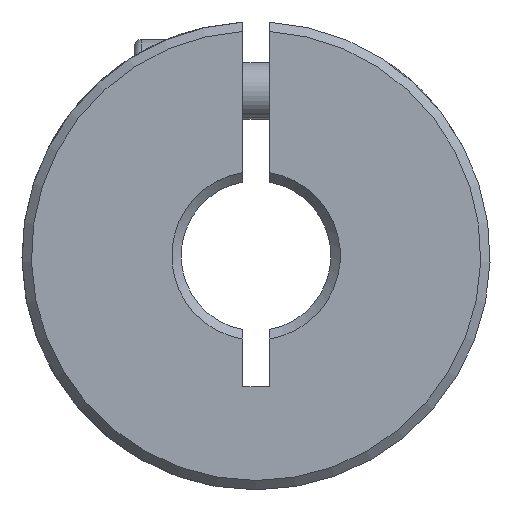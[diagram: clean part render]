
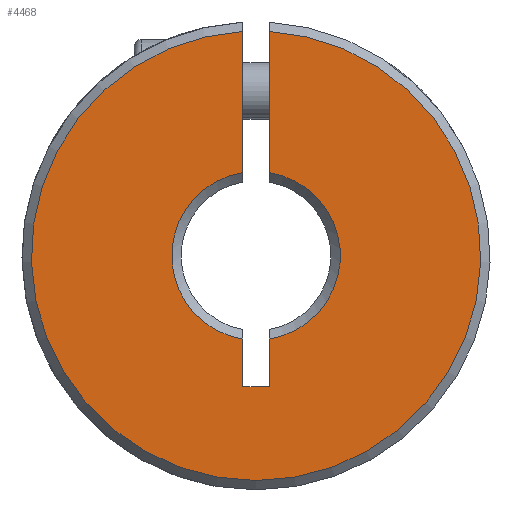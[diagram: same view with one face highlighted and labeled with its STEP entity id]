
A CAD part, front view. The second image highlights one B-rep face of the part: STEP entity #4468.
In plain terms, the highlighted planar face has unit normal (0, -1, 0).
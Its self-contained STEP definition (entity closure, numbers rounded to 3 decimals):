
#33 = EDGE_LOOP ( 'NONE', ( #2289, #3914, #1286, #2125, #3840, #5122, #817, #3143 ) ) ;
#117 = LINE ( 'NONE', #2222, #3641 ) ;
#211 = DIRECTION ( 'NONE',  ( 0., 1., 0. ) ) ;
#329 = CARTESIAN_POINT ( 'NONE',  ( 0.7, 0.25, -4.445 ) ) ;
#409 = VERTEX_POINT ( 'NONE', #4543 ) ;
#636 = CARTESIAN_POINT ( 'NONE',  ( -0.7, 0.25, -7. ) ) ;
#706 = AXIS2_PLACEMENT_3D ( 'NONE', #865, #1567, #4873 ) ;
#713 = CIRCLE ( 'NONE', #2175, 4.5 ) ;
#817 = ORIENTED_EDGE ( 'NONE', *, *, #1670, .F. ) ;
#857 = CARTESIAN_POINT ( 'NONE',  ( 12.5, 0.25, -50. ) ) ;
#865 = CARTESIAN_POINT ( 'NONE',  ( 0., 0.25, 0. ) ) ;
#1139 = DIRECTION ( 'NONE',  ( 1., 0., 0. ) ) ;
#1245 = CARTESIAN_POINT ( 'NONE',  ( 0.7, 0.25, 4.445 ) ) ;
#1286 = ORIENTED_EDGE ( 'NONE', *, *, #2389, .F. ) ;
#1327 = DIRECTION ( 'NONE',  ( 0., 1., 0. ) ) ;
#1332 = DIRECTION ( 'NONE',  ( 0., 0., 1. ) ) ;
#1440 = CARTESIAN_POINT ( 'NONE',  ( -0.7, 0.25, -4.445 ) ) ;
#1492 = AXIS2_PLACEMENT_3D ( 'NONE', #5338, #3762, #2006 ) ;
#1517 = DIRECTION ( 'NONE',  ( 0., 0., 1. ) ) ;
#1567 = DIRECTION ( 'NONE',  ( 0., 1., 0. ) ) ;
#1622 = VERTEX_POINT ( 'NONE', #3104 ) ;
#1670 = EDGE_CURVE ( 'NONE', #1622, #409, #2870, .T. ) ;
#1724 = CARTESIAN_POINT ( 'NONE',  ( 0.7, 0.25, -7. ) ) ;
#1815 = VERTEX_POINT ( 'NONE', #1724 ) ;
#1856 = DIRECTION ( 'NONE',  ( 0., 0., 1. ) ) ;
#1969 = EDGE_CURVE ( 'NONE', #3640, #3019, #3583, .T. ) ;
#2006 = DIRECTION ( 'NONE',  ( 0., 0., 1. ) ) ;
#2125 = ORIENTED_EDGE ( 'NONE', *, *, #4048, .F. ) ;
#2175 = AXIS2_PLACEMENT_3D ( 'NONE', #2257, #211, #1856 ) ;
#2222 = CARTESIAN_POINT ( 'NONE',  ( 0.7, 0.25, -7. ) ) ;
#2235 = VERTEX_POINT ( 'NONE', #636 ) ;
#2257 = CARTESIAN_POINT ( 'NONE',  ( 0., 0.25, 0. ) ) ;
#2282 = CARTESIAN_POINT ( 'NONE',  ( -0.7, 0.25, -7. ) ) ;
#2289 = ORIENTED_EDGE ( 'NONE', *, *, #1969, .F. ) ;
#2389 = EDGE_CURVE ( 'NONE', #1815, #2591, #117, .T. ) ;
#2556 = CARTESIAN_POINT ( 'NONE',  ( -0.7, 0.25, -7. ) ) ;
#2591 = VERTEX_POINT ( 'NONE', #329 ) ;
#2712 = LINE ( 'NONE', #2556, #4017 ) ;
#2870 = LINE ( 'NONE', #2282, #3899 ) ;
#2873 = AXIS2_PLACEMENT_3D ( 'NONE', #857, #1327, #2994 ) ;
#2994 = DIRECTION ( 'NONE',  ( 0., 0., 1. ) ) ;
#3019 = VERTEX_POINT ( 'NONE', #4113 ) ;
#3104 = CARTESIAN_POINT ( 'NONE',  ( -0.7, 0.25, 11.98 ) ) ;
#3114 = VERTEX_POINT ( 'NONE', #1440 ) ;
#3143 = ORIENTED_EDGE ( 'NONE', *, *, #3756, .T. ) ;
#3241 = CARTESIAN_POINT ( 'NONE',  ( 0.7, 0.25, -7. ) ) ;
#3251 = CARTESIAN_POINT ( 'NONE',  ( 0.7, 0.25, -7. ) ) ;
#3557 = VECTOR ( 'NONE', #1517, 1000. ) ;
#3583 = LINE ( 'NONE', #3251, #3557 ) ;
#3591 = EDGE_CURVE ( 'NONE', #3640, #2591, #4864, .T. ) ;
#3640 = VERTEX_POINT ( 'NONE', #1245 ) ;
#3641 = VECTOR ( 'NONE', #1332, 1000. ) ;
#3756 = EDGE_CURVE ( 'NONE', #1622, #3019, #4941, .T. ) ;
#3762 = DIRECTION ( 'NONE',  ( 0., -1., 0. ) ) ;
#3802 = DIRECTION ( 'NONE',  ( 0., 0., -1. ) ) ;
#3840 = ORIENTED_EDGE ( 'NONE', *, *, #4367, .F. ) ;
#3899 = VECTOR ( 'NONE', #3950, 1000. ) ;
#3910 = VECTOR ( 'NONE', #1139, 1000. ) ;
#3914 = ORIENTED_EDGE ( 'NONE', *, *, #3591, .T. ) ;
#3916 = EDGE_CURVE ( 'NONE', #3114, #409, #713, .T. ) ;
#3950 = DIRECTION ( 'NONE',  ( 0., 0., -1. ) ) ;
#4017 = VECTOR ( 'NONE', #3802, 1000. ) ;
#4048 = EDGE_CURVE ( 'NONE', #2235, #1815, #5219, .T. ) ;
#4113 = CARTESIAN_POINT ( 'NONE',  ( 0.7, 0.25, 11.98 ) ) ;
#4367 = EDGE_CURVE ( 'NONE', #3114, #2235, #2712, .T. ) ;
#4468 = ADVANCED_FACE ( 'NONE', ( #4978 ), #5074, .F. ) ;
#4543 = CARTESIAN_POINT ( 'NONE',  ( -0.7, 0.25, 4.445 ) ) ;
#4864 = CIRCLE ( 'NONE', #706, 4.5 ) ;
#4873 = DIRECTION ( 'NONE',  ( 0., 0., 1. ) ) ;
#4941 = CIRCLE ( 'NONE', #1492, 12. ) ;
#4978 = FACE_OUTER_BOUND ( 'NONE', #33, .T. ) ;
#5074 = PLANE ( 'NONE',  #2873 ) ;
#5122 = ORIENTED_EDGE ( 'NONE', *, *, #3916, .T. ) ;
#5219 = LINE ( 'NONE', #3241, #3910 ) ;
#5338 = CARTESIAN_POINT ( 'NONE',  ( 0., 0.25, 0. ) ) ;
